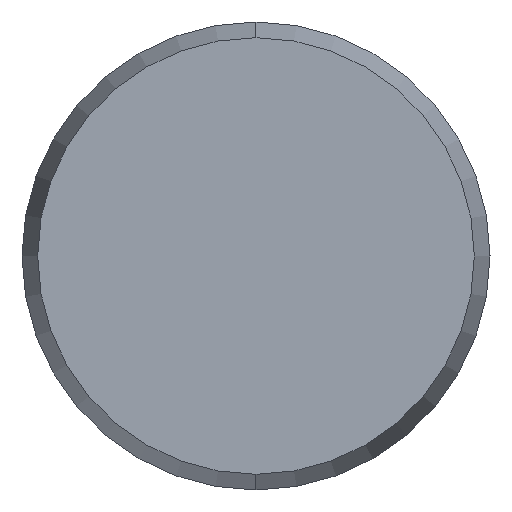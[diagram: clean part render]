
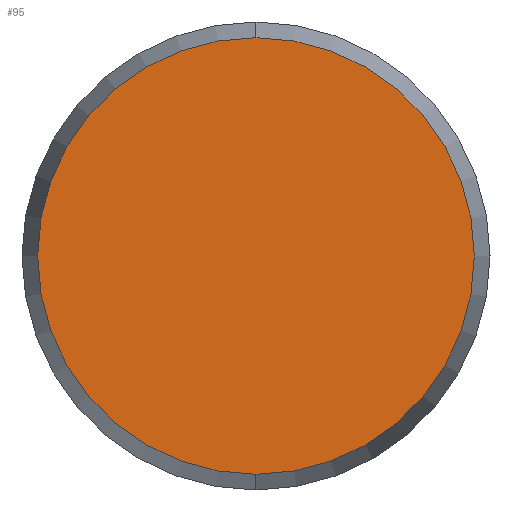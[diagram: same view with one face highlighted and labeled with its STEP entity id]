
A CAD part, left-side view. The second image highlights one B-rep face of the part: STEP entity #95.
In plain terms, the highlighted planar face has unit normal (-1, 0, 0).
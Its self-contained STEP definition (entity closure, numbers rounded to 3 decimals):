
#95 = ADVANCED_FACE ( 'NONE', ( #210 ), #209, .F. ) ;
#100 = EDGE_LOOP ( 'NONE', ( #227, #226 ) ) ;
#111 = DIRECTION ( 'NONE',  ( 0., 0., -1. ) ) ;
#112 = DIRECTION ( 'NONE',  ( 1., 0., 0. ) ) ;
#113 = CARTESIAN_POINT ( 'NONE',  ( -35., 0., 0. ) ) ;
#114 = AXIS2_PLACEMENT_3D ( 'NONE', #113, #112, #111 ) ;
#115 = CIRCLE ( 'NONE', #114, 7.464 ) ;
#137 = EDGE_CURVE ( 'NONE', #138, #139, #193, .T. ) ;
#138 = VERTEX_POINT ( 'NONE', #188 ) ;
#139 = VERTEX_POINT ( 'NONE', #187 ) ;
#187 = CARTESIAN_POINT ( 'NONE',  ( -35., 0., -7.464 ) ) ;
#188 = CARTESIAN_POINT ( 'NONE',  ( -35., 0., 7.464 ) ) ;
#189 = DIRECTION ( 'NONE',  ( 0., 0., -1. ) ) ;
#190 = DIRECTION ( 'NONE',  ( 1., 0., 0. ) ) ;
#191 = CARTESIAN_POINT ( 'NONE',  ( -35., 0., 0. ) ) ;
#192 = AXIS2_PLACEMENT_3D ( 'NONE', #191, #190, #189 ) ;
#193 = CIRCLE ( 'NONE', #192, 7.464 ) ;
#204 = DIRECTION ( 'NONE',  ( 0., 0., -1. ) ) ;
#205 = DIRECTION ( 'NONE',  ( 1., 0., 0. ) ) ;
#206 = CARTESIAN_POINT ( 'NONE',  ( -35., 0., 0. ) ) ;
#208 = AXIS2_PLACEMENT_3D ( 'NONE', #206, #205, #204 ) ;
#209 = PLANE ( 'NONE',  #208 ) ;
#210 = FACE_OUTER_BOUND ( 'NONE', #100, .T. ) ;
#226 = ORIENTED_EDGE ( 'NONE', *, *, #240, .F. ) ;
#227 = ORIENTED_EDGE ( 'NONE', *, *, #137, .F. ) ;
#240 = EDGE_CURVE ( 'NONE', #139, #138, #115, .T. ) ;
